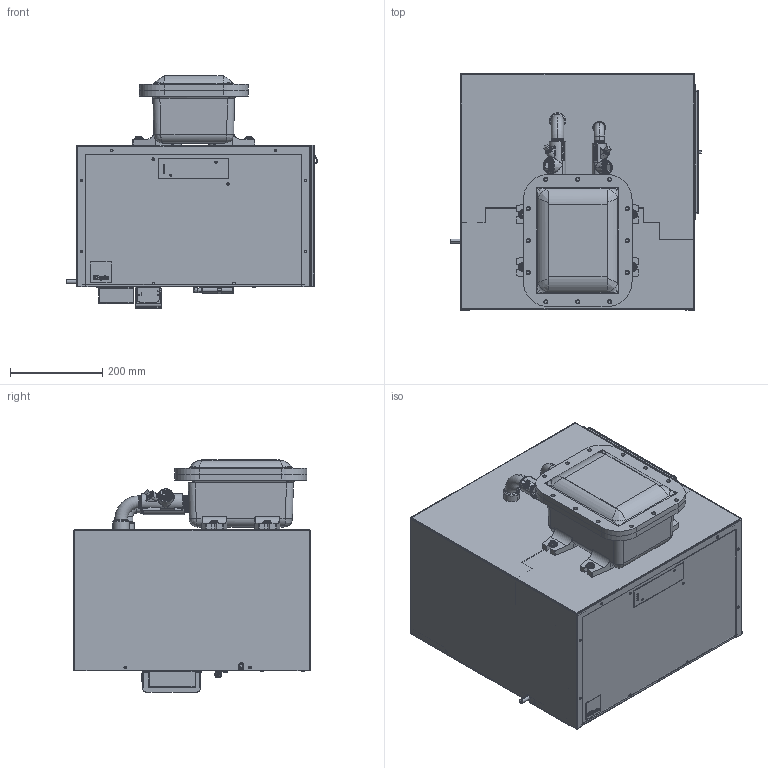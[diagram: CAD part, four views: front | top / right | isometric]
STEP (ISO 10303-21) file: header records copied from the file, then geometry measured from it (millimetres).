
FILE_DESCRIPTION (( 'STEP AP214' ), '1' );
FILE_NAME ('3D MODEL, IQ30-4500T XP2.STEP', '2021-03-03T13:58:49', ( '' ), ( '' ), 'SwSTEP 2.0', 'SolidWorks 2019', '' );
FILE_SCHEMA (( 'AUTOMOTIVE_DESIGN' ));
Length unit declared in the file: inch
Products named in the file (1): 3D MODEL, IQ30-4500T XP2
Bounding box: 542.62 x 511.05 x 504.12 mm (x, y, z)
Surface area: 3356413.2 mm2 (no closed solid volume)
Topology: 0 solids, 172 shells, 1829 faces, 7736 edges, 5865 vertices
Faces by surface type: plane 1040, cylinder 572, cone 93, bspline 80, torus 36, sphere 8
Entity records: 129317 total; most frequent: CARTESIAN_POINT 44990, ORIENTED_EDGE 11649, DIRECTION 11336, EDGE_CURVE 7713, VERTEX_POINT 5865, LINE 4532, VECTOR 4532, AXIS2_PLACEMENT_3D 3402
